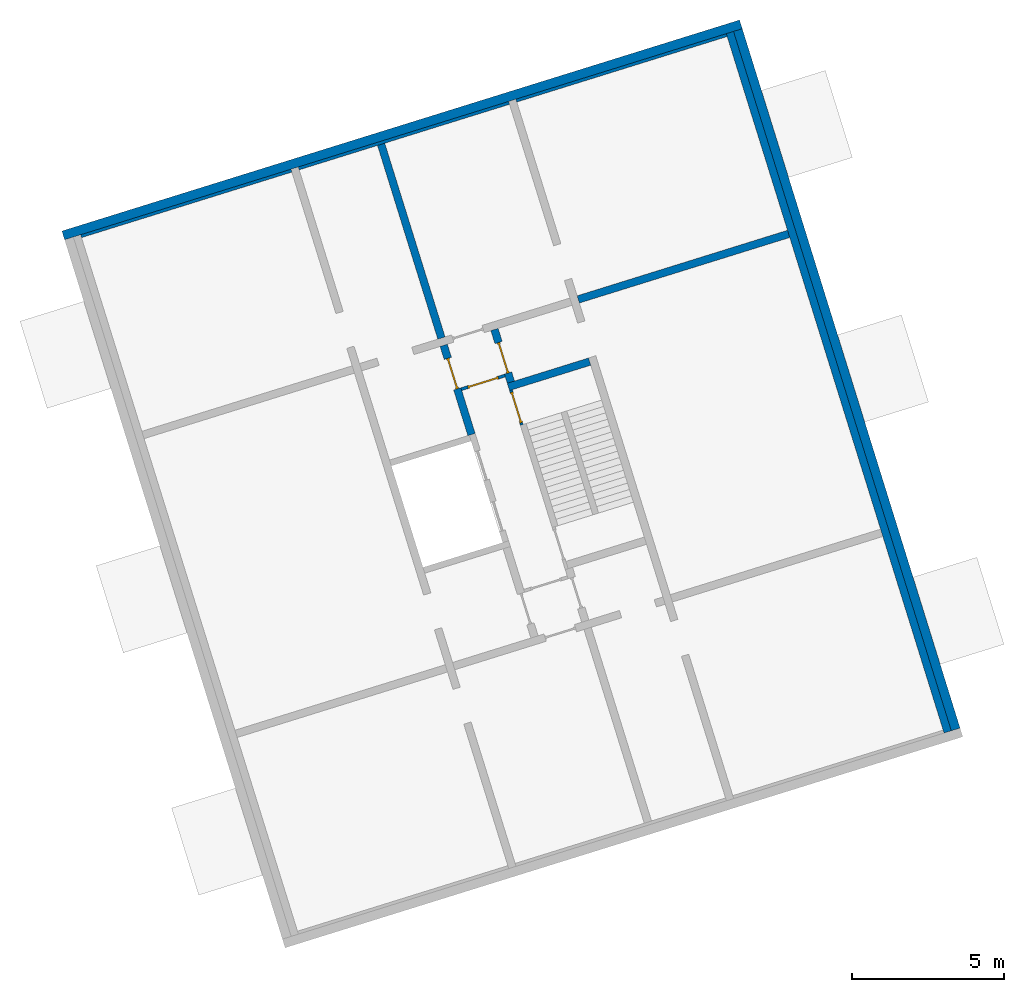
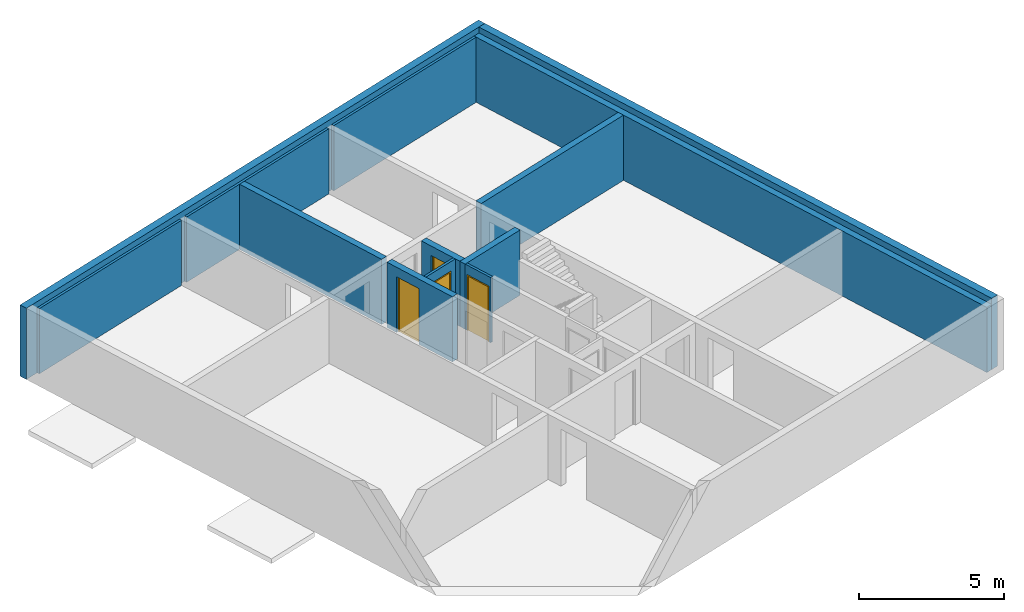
# One storey, part 2 of 4: 13 walls, 4 doors, 4 openings.
"""IFC4 building model written with IfcOpenShell, lengths in metres."""

import ifcopenshell
import ifcopenshell.guid

model = None  # the IFC model being written
_history = None  # IfcOwnerHistory: only IFC2X3 demands one
_inside = {}  # id of a spatial element -> (the spatial element, [elements in it])
_under = {}  # id of a project, library or spatial element -> (it, [spatial elements below it])
_declared = {}  # id of a project -> (the project, [libraries it declares])
_typed = {}  # id of a type object -> (the type object, [elements of that type])
_made_of = {}  # id of a material, layer set ... -> (it, [elements and type objects made of it])


def new_model(schema):
    """Start an empty IFC model of exactly this schema.

    Asked for "IFC4X3", IfcOpenShell would pick the latest addendum, in which some entities
    have other attributes; the version numbers below select the first issue.
    IFC2X3 requires an IfcOwnerHistory on every rooted entity: one is made here for all.
    """
    global model, _history
    if schema == "IFC4X3":
        model = ifcopenshell.file(schema_version=(4, 3, 0, 0))
    else:
        model = ifcopenshell.file(schema=schema)
    _inside.clear()
    _under.clear()
    _declared.clear()
    _typed.clear()
    _made_of.clear()
    _history = None
    if model.schema == "IFC2X3":
        org = make("IfcOrganization", Name="unknown")
        user = make(
            "IfcPersonAndOrganization",
            ThePerson=make("IfcPerson", FamilyName="unknown"),
            TheOrganization=org,
        )
        app = make(
            "IfcApplication",
            ApplicationDeveloper=org,
            Version="unknown",
            ApplicationFullName="unknown",
            ApplicationIdentifier="unknown",
        )
        _history = make(
            "IfcOwnerHistory",
            OwningUser=user,
            OwningApplication=app,
            ChangeAction="ADDED",
            CreationDate=0,
        )
    return model


def make(cls, **values):
    """One entity of the class cls with the attributes given. An attribute that is None is left unset."""
    return model.create_entity(
        cls, **{name: value for name, value in values.items() if value is not None}
    )


def entity(cls, *values):
    """Any entity or typed value of the class cls, its attributes in the order of the schema. None: left unset."""
    e = model.create_entity(cls)
    for i, value in enumerate(values):
        if value is not None:
            e[i] = value
    return e


def rooted(cls, **values):
    """An entity with a GlobalId (a new one), such as an element, a storey or a relation."""
    return make(cls, GlobalId=ifcopenshell.guid.new(), OwnerHistory=_history, **values)


def si_unit(unit_type, name, prefix=None):
    """IfcSIUnit, for example si_unit("LENGTHUNIT", "METRE", prefix="MILLI")."""
    return make("IfcSIUnit", UnitType=unit_type, Prefix=prefix, Name=name)


def converted_unit(unit_type, name, factor, base, dimensions=None, offset=None):
    """IfcConversionBasedUnit, such as the inch: factor (a typed value) times the base unit."""
    return make(
        "IfcConversionBasedUnit"
        if offset is None
        else "IfcConversionBasedUnitWithOffset",
        ConversionOffset=offset,
        Dimensions=None
        if dimensions is None
        else entity("IfcDimensionalExponents", *dimensions),
        UnitType=unit_type,
        Name=name,
        ConversionFactor=make(
            "IfcMeasureWithUnit", ValueComponent=factor, UnitComponent=base
        ),
    )


def assignment(units):
    """IfcUnitAssignment: the units of a project."""
    return None if units is None else make("IfcUnitAssignment", Units=units)


def point(xyz):
    """IfcCartesianPoint."""
    return None if xyz is None else make("IfcCartesianPoint", Coordinates=xyz)


def direction(xyz):
    """IfcDirection."""
    return None if xyz is None else make("IfcDirection", DirectionRatios=xyz)


def frame(location, z_axis=None, x_axis=None):
    """IfcAxis2Placement3D, a coordinate frame: its origin and axes. An axis left out is left unset."""
    return make(
        "IfcAxis2Placement3D",
        Location=point(location),
        Axis=direction(z_axis),
        RefDirection=direction(x_axis),
    )


def origin():
    """The frame at (0, 0, 0) with its axes left unset."""
    return frame((0.0, 0.0, 0.0))


def place(relative_to, where):
    """IfcLocalPlacement: puts the frame where relative to a parent placement (None: the world)."""
    return make(
        "IfcLocalPlacement", PlacementRelTo=relative_to, RelativePlacement=where
    )


def context(
    kind, dimensions, precision=None, world=None, true_north=None, identifier=None
):
    """IfcGeometricRepresentationContext, for example the 3D "Model" context."""
    return make(
        "IfcGeometricRepresentationContext",
        ContextIdentifier=identifier,
        ContextType=kind,
        CoordinateSpaceDimension=dimensions,
        Precision=precision,
        WorldCoordinateSystem=world,
        TrueNorth=true_north,
    )


def subcontext(parent, identifier, kind, view, scale=None):
    """IfcGeometricRepresentationSubContext, for example "Body" below "Model"."""
    return make(
        "IfcGeometricRepresentationSubContext",
        ContextIdentifier=identifier,
        ContextType=kind,
        ParentContext=parent,
        TargetScale=scale,
        TargetView=view,
    )


def project(units=None, contexts=None):
    """IfcProject with its units and contexts."""
    return rooted(
        "IfcProject",
        Name="project",
        RepresentationContexts=contexts,
        UnitsInContext=assignment(units),
    )


def spatial(cls, under=None, at=None, **own):
    """A site, building, storey or space (cls), placed at a placement, below another one or the project."""
    s = rooted(cls, ObjectPlacement=at, **own)
    if under is not None:
        _under.setdefault(under.id(), (under, []))[1].append(s)
    return s


def point_list(points):
    """IfcCartesianPointList2D or 3D."""
    cls = (
        "IfcCartesianPointList2D" if len(points[0]) == 2 else "IfcCartesianPointList3D"
    )
    return make(cls, CoordList=points)


def indexed_curve(points, segments=None, self_intersect=None):
    """IfcIndexedPolyCurve: lines and arcs through numbered points (the first is 1)."""
    return make(
        "IfcIndexedPolyCurve",
        Points=point_list(points),
        Segments=segments,
        SelfIntersect=self_intersect,
    )


def outline(outer, holes=None, kind="AREA"):
    """IfcArbitraryClosedProfileDef: a profile drawn as a closed curve; with holes, ...WithVoids."""
    if holes is None:
        return make("IfcArbitraryClosedProfileDef", ProfileType=kind, OuterCurve=outer)
    return make(
        "IfcArbitraryProfileDefWithVoids",
        ProfileType=kind,
        OuterCurve=outer,
        InnerCurves=holes,
    )


def extrude(swept, where, along, depth):
    """IfcExtrudedAreaSolid: the profile swept, set in the frame where, extruded along a direction by depth."""
    return make(
        "IfcExtrudedAreaSolid",
        SweptArea=swept,
        Position=where,
        ExtrudedDirection=direction(along),
        Depth=depth,
    )


def polygons(points, faces, closed=None, point_numbers=None):
    """IfcPolygonalFaceSet: a face is its outer loop, then its inner loops; points numbered from 1."""
    made = []
    for loops in faces:
        if len(loops) == 1:
            made.append(make("IfcIndexedPolygonalFace", CoordIndex=loops[0]))
        else:
            made.append(
                make(
                    "IfcIndexedPolygonalFaceWithVoids",
                    CoordIndex=loops[0],
                    InnerCoordIndices=loops[1:],
                )
            )
    return make(
        "IfcPolygonalFaceSet",
        Coordinates=point_list(points),
        Closed=closed,
        Faces=made,
        PnIndex=point_numbers,
    )


def shape(context_of_items, identifier, shape_type, items):
    """IfcShapeRepresentation: the items that make up one representation, for example the "Body"."""
    return make(
        "IfcShapeRepresentation",
        ContextOfItems=context_of_items,
        RepresentationIdentifier=identifier,
        RepresentationType=shape_type,
        Items=items,
    )


def source(mapping_origin, context_of_items, identifier, shape_type, items):
    """IfcRepresentationMap: a shape defined once, which mapped items show again and again."""
    return make(
        "IfcRepresentationMap",
        MappingOrigin=mapping_origin,
        MappedRepresentation=shape(context_of_items, identifier, shape_type, items),
    )


def transform(
    local_origin,
    x_axis=None,
    y_axis=None,
    z_axis=None,
    scale=None,
    scale2=None,
    scale3=None,
    uniform=True,
):
    """IfcCartesianTransformationOperator3D, or its non-uniform kind. x_axis, y_axis, z_axis: its Axis1, 2, 3."""
    if uniform:
        return make(
            "IfcCartesianTransformationOperator3D",
            Axis1=direction(x_axis),
            Axis2=direction(y_axis),
            LocalOrigin=point(local_origin),
            Scale=scale,
            Axis3=direction(z_axis),
        )
    return make(
        "IfcCartesianTransformationOperator3DnonUniform",
        Axis1=direction(x_axis),
        Axis2=direction(y_axis),
        LocalOrigin=point(local_origin),
        Scale=scale,
        Axis3=direction(z_axis),
        Scale2=scale2,
        Scale3=scale3,
    )


def mapped(mapping_source, mapping_target):
    """IfcMappedItem: shows the shape of a source again, moved by a transform."""
    return make(
        "IfcMappedItem", MappingSource=mapping_source, MappingTarget=mapping_target
    )


def material(Name=None, Category=None):
    """IfcMaterial."""
    return make("IfcMaterial", Name=Name, Category=Category)


def constituent(of_material, Name=None, Category=None, fraction=None):
    """IfcMaterialConstituent: one of the materials an element consists of."""
    return make(
        "IfcMaterialConstituent",
        Name=Name,
        Material=of_material,
        Fraction=fraction,
        Category=Category,
    )


def constituent_set(constituents=None, Name=None):
    """IfcMaterialConstituentSet."""
    return make(
        "IfcMaterialConstituentSet", Name=Name, MaterialConstituents=constituents
    )


def made_of(thing, what):
    """Note that an element or type object is made of a material, layer set ...; save() writes the relation."""
    if what is not None:
        _made_of.setdefault(what.id(), (what, []))[1].append(thing)
    return thing


def type_object(cls, material=None, **own):
    """A type object (cls), such as IfcWallType, which elements share."""
    return made_of(rooted(cls, **own), material)


def type_shapes(of_type, sources):
    """Give a type object the sources (RepresentationMaps) that its elements show as mapped items."""
    of_type.RepresentationMaps = sources


def element(
    cls,
    number,
    at=None,
    inside=None,
    cuts=None,
    type_object=None,
    material=None,
    context=None,
    identifier="Body",
    shape_type=None,
    held_by="IfcProductDefinitionShape",
    body=None,
    shapes=None,
    **own,
):
    """One element of the class cls, such as IfcWall. Its Tag is "e" and its number.

    at: its placement. inside: the storey or other place that contains it. cuts: it is an
    opening in that element (IfcRelVoidsElement). A single representation is given by context,
    identifier, shape_type and body (its items); several are given by shapes. held_by: the class
    of the entity that holds the representations. save() writes the other relations.
    """
    e = rooted(cls, Tag="e%d" % number, ObjectPlacement=at, **own)
    if body is not None:
        shapes = [shape(context, identifier, shape_type, body)]
    if shapes is not None:
        e.Representation = make(held_by, Representations=shapes)
    if inside is not None:
        _inside.setdefault(inside.id(), (inside, []))[1].append(e)
    if cuts is not None:
        rooted(
            "IfcRelVoidsElement", RelatingBuildingElement=cuts, RelatedOpeningElement=e
        )
    if type_object is not None:
        _typed.setdefault(type_object.id(), (type_object, []))[1].append(e)
    return made_of(e, material)


def fill(opening, filler):
    """IfcRelFillsElement: the door or window that sits in an opening."""
    return rooted(
        "IfcRelFillsElement",
        RelatingOpeningElement=opening,
        RelatedBuildingElement=filler,
    )


def aggregate(whole, parts):
    """IfcRelAggregates: a whole, such as a stair, and the parts it consists of."""
    return rooted("IfcRelAggregates", RelatingObject=whole, RelatedObjects=parts)


def save(model, path):
    """Write the relations noted so far, then the file.

    IfcRelAggregates (storeys below a building ...), IfcRelContainedInSpatialStructure (elements
    in a storey), IfcRelDefinesByType, IfcRelAssociatesMaterial and IfcRelDeclares: one each for
    every whole, place, type object, material and project.
    """
    for whole, parts in _under.values():
        aggregate(whole, parts)
    for where, things in _inside.values():
        rooted(
            "IfcRelContainedInSpatialStructure",
            RelatedElements=things,
            RelatingStructure=where,
        )
    for kind, things in _typed.values():
        rooted("IfcRelDefinesByType", RelatedObjects=things, RelatingType=kind)
    for what, things in _made_of.values():
        rooted("IfcRelAssociatesMaterial", RelatedObjects=things, RelatingMaterial=what)
    for by, libraries in _declared.values():
        rooted("IfcRelDeclares", RelatingContext=by, RelatedDefinitions=libraries)
    model.write(path)


model = new_model("IFC4")

# Units and contexts
model_context = context("Model", 3, precision=1e-05, world=origin(), true_north=direction((6.12323399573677e-17, 1.0)))
body_context = subcontext(model_context, "Body", "Model", "MODEL_VIEW")
ifc_project = project(units=[si_unit("LENGTHUNIT", "METRE"), si_unit("AREAUNIT", "SQUARE_METRE"), si_unit("VOLUMEUNIT", "CUBIC_METRE"), converted_unit("PLANEANGLEUNIT", "DEGREE", entity("IfcPlaneAngleMeasure", 0.0174532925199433), si_unit("PLANEANGLEUNIT", "RADIAN"), dimensions=[0, 0, 0, 0, 0, 0, 0])], contexts=[model_context])

# Site, building, storey
site_placement = place(None, frame((13.1347999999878, 11.9886000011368, 0.0), z_axis=(0.0, 0.0, 1.0), x_axis=(0.954770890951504, 0.297342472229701, 0.0)))
site = spatial("IfcSite", under=ifc_project, at=site_placement, Name="Schiehaven", CompositionType="ELEMENT")
building_placement = place(site_placement, origin())
building = spatial("IfcBuilding", under=site, at=building_placement, Name="VORM huis", CompositionType="ELEMENT")
storey_placement = place(building_placement, frame((0.0, 0.0, 18.9)))
storey = spatial("IfcBuildingStorey", under=building, at=storey_placement, Name="06 zesde verdieping", CompositionType="ELEMENT", Elevation=18.9)

# Walls
ifc_material_1 = material(Name="beton_gewapend_ihw", Category="Miscellaneous")
wall_type_1 = type_object("IfcWallType", Name="Basic Wall:28_WA_skelet_wand 250mm_gen", PredefinedType="STANDARD")
wall_1_placement = place(storey_placement, frame((27.5, 5.0, 0.0), z_axis=(0.0, 0.0, 1.0), x_axis=(0.0, 1.0, 0.0)))
element("IfcWall", 1, at=wall_1_placement, inside=storey, type_object=wall_type_1, material=ifc_material_1, Name="Constructieve wand", ObjectType="Wand", PredefinedType="NOTDEFINED", context=body_context, shape_type="SweptSolid", body=[
    extrude(outline(indexed_curve([(24.1, 0.125000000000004), (4.21737840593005e-16, 0.125000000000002), (-4.21737840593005e-16, -0.125000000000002), (24.1, -0.125), (24.1, 0.125000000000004)], self_intersect=False)), origin(), (0.0, 0.0, 1.0), 2.75),
])
ifc_material_2 = material(Name="ntb_ntb_ntb", Category="Miscellaneous")
wall_type_2 = type_object("IfcWallType", Name="Basic Wall:21_WA_gevel_binnenspouwwand 100mm_gen", PredefinedType="STANDARD")
wall_2_placement = place(storey_placement, frame((5.12500000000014, 29.0500000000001, 0.0)))
element("IfcWall", 2, at=wall_2_placement, inside=storey, type_object=wall_type_2, material=ifc_material_2, Name="Binnenspouwblad", ObjectType="Wand", PredefinedType="NOTDEFINED", context=body_context, shape_type="SweptSolid", body=[
    extrude(outline(indexed_curve([(7.24999999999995, 0.0500000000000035), (-1.62265042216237e-16, 0.0500000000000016), (1.62265042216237e-16, -0.0500000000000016), (7.24999999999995, -0.0499999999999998), (7.24999999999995, 0.0500000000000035)], self_intersect=False)), origin(), (0.0, 0.0, 1.0), 2.75),
])
wall_3_placement = place(storey_placement, frame((19.8750000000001, 29.05, 0.0), z_axis=(0.0, 0.0, 1.0), x_axis=(-1.0, 0.0, 0.0)))
element("IfcWall", 3, at=wall_3_placement, inside=storey, type_object=wall_type_2, material=ifc_material_2, Name="Binnenspouwblad", ObjectType="Wand", PredefinedType="NOTDEFINED", context=body_context, shape_type="SweptSolid", body=[
    extrude(outline(indexed_curve([(7.24999999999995, 0.0500000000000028), (-8.07179175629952e-18, 0.0500000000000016), (8.07179175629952e-18, -0.0500000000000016), (7.24999999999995, -0.0500000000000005), (7.24999999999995, 0.0500000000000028)], self_intersect=False)), origin(), (0.0, 0.0, 1.0), 2.75),
])
wall_4_placement = place(storey_placement, frame((20.1250000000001, 29.05, 0.0)))
element("IfcWall", 4, at=wall_4_placement, inside=storey, type_object=wall_type_2, material=ifc_material_2, Name="Binnenspouwblad", ObjectType="Wand", PredefinedType="NOTDEFINED", context=body_context, shape_type="SweptSolid", body=[
    extrude(outline(indexed_curve([(7.24999999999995, 0.0500000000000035), (-1.62265042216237e-16, 0.0500000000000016), (1.62265042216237e-16, -0.0500000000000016), (7.24999999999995, -0.0499999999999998), (7.24999999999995, 0.0500000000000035)], self_intersect=False)), origin(), (0.0, 0.0, 1.0), 2.75),
])
wall_type_3 = type_object("IfcWallType", Name="Basic Wall: 300mm_gen", PredefinedType="STANDARD")
wall_5_placement = place(storey_placement, frame((27.7750000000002, 29.1, 0.0), z_axis=(0.0, 0.0, 1.0), x_axis=(0.0, -1.0, 0.0)))
element("IfcWall", 5, at=wall_5_placement, inside=storey, type_object=wall_type_3, material=ifc_material_2, Name="Gevelwand", ObjectType="Wand", PredefinedType="NOTDEFINED", context=body_context, shape_type="SweptSolid", body=[
    extrude(outline(indexed_curve([(24.1, 0.149999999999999), (-3.69735301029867e-16, 0.150000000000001), (3.69735301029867e-16, -0.150000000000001), (24.1, -0.150000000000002), (24.1, 0.149999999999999)], self_intersect=False)), origin(), (0.0, 0.0, 1.0), 3.0),
])
wall_6_placement = place(storey_placement, frame((4.57500000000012, 29.25, 0.0)))
element("IfcWall", 6, at=wall_6_placement, inside=storey, type_object=wall_type_3, material=ifc_material_2, Name="Gevelwand", ObjectType="Wand", PredefinedType="NOTDEFINED", context=body_context, shape_type="SweptSolid", body=[
    extrude(outline(indexed_curve([(23.35, 0.15), (1.58384323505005e-16, 0.150000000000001), (-1.58384323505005e-16, -0.150000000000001), (23.35, -0.150000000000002), (23.35, 0.15)], self_intersect=False)), origin(), (0.0, 0.0, 1.0), 3.0),
])
wall_type_4 = type_object("IfcWallType", Name="Basic Wall:22_WA_afbouw_binnenwand 250mm_gen", PredefinedType="STANDARD")
wall_7_placement = place(storey_placement, frame((19.8750000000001, 20.135, 0.0), z_axis=(0.0, 0.0, 1.0), x_axis=(-1.0, 0.0, 0.0)))
element("IfcWall", 7, at=wall_7_placement, inside=storey, type_object=wall_type_4, material=ifc_material_2, Name="Binnenwand", ObjectType="Wand", PredefinedType="NOTDEFINED", context=body_context, shape_type="SweptSolid", body=[
    extrude(outline(indexed_curve([(2.8, 0.125000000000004), (-4.9649652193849e-16, 0.125000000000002), (4.9649652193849e-16, -0.125000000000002), (2.80000000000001, -0.124999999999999), (2.8, 0.125000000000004)], self_intersect=False)), origin(), (0.0, 0.0, 1.0), 2.75),
])

# Wall, opening, door
wall_8_placement = place(storey_placement, frame((17.2000000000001, 20.26, 0.0), z_axis=(0.0, 0.0, 1.0), x_axis=(0.0, 1.0, 0.0)))
wall_8 = element("IfcWall", 8, at=wall_8_placement, inside=storey, type_object=wall_type_4, material=ifc_material_2, Name="Binnenwand", ObjectType="Wand", PredefinedType="NOTDEFINED", context=body_context, shape_type="Tessellation", body=[
    polygons([(0.0, -0.124999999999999, -2.16573425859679e-15), (0.315000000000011, -0.124999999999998, -2.16573425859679e-15), (0.315000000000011, -0.124999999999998, 2.34999999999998), (1.36500000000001, -0.125, 2.34999999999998), (1.36500000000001, -0.125, -2.16573425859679e-15), (1.815, -0.125000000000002, -2.16573425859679e-15), (1.815, -0.125000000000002, 2.75), (0.0, -0.124999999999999, 2.75), (0.315000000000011, 0.125, 2.34999999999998), (0.315000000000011, 0.125, -2.16573425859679e-15), (0.215000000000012, 0.124999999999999, -2.16573425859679e-15), (0.0, 0.125, -2.16573425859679e-15), (0.0, 0.125, 2.75), (0.215000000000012, 0.124999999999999, 2.75), (0.315000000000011, 0.125, 2.75), (1.815, 0.125, 2.75), (1.815, 0.125, -2.16573425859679e-15), (1.36500000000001, 0.124999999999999, -2.16573425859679e-15), (1.36500000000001, 0.124999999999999, 2.34999999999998)], [[[1, 2, 3, 4, 5, 6, 7, 8]], [[9, 10, 11, 12, 13, 14, 15, 16, 17, 18, 19]], [[12, 11, 10, 2, 1]], [[7, 6, 17, 16]], [[8, 7, 16, 15, 14, 13]], [[5, 4, 19, 18]], [[3, 2, 10, 9]], [[4, 3, 9, 19]], [[1, 8, 13, 12]], [[18, 17, 6, 5]]], closed=True),
])
opening_1_placement = place(wall_8_placement, frame((0.315000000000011, -0.125000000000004, 0.0)))
opening_1 = element("IfcOpeningElement", 9, at=opening_1_placement, cuts=wall_8, Name="Woningtoegangsdeur", PredefinedType="OPENING", context=body_context, shape_type="SweptSolid", body=[
    extrude(outline(indexed_curve([(2.34999999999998, 1.05), (0.0, 1.05), (0.0, 0.0), (2.34999999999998, 0.0), (2.34999999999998, 1.05)], self_intersect=False)), frame((0.0, 0.0, 0.0), z_axis=(0.0, 1.0, 0.0), x_axis=(0.0, 0.0, 1.0)), (0.0, 0.0, 1.0), 0.25),
])
ifc_material_3 = material(Name="PD_a_binnenwandopeningen", Category="Miscellaneous")
ifc_constituent_1 = constituent(ifc_material_3, Name="PD_a_binnenwandopeningen", Category="Miscellaneous")
ifc_material_4 = material(Name="metaal_aluminium_ntb", Category="Miscellaneous")
ifc_constituent_2 = constituent(ifc_material_4, Name="metaal_aluminium_ntb", Category="Miscellaneous")
ifc_constituent_set_1 = constituent_set(constituents=[ifc_constituent_1, ifc_constituent_2])
ifc_constituent_3 = constituent(ifc_material_3, Name="PD_a_binnenwandopeningen", Category="Miscellaneous")
ifc_constituent_4 = constituent(ifc_material_4, Name="Panel", Category="Miscellaneous")
ifc_constituent_set_2 = constituent_set(constituents=[ifc_constituent_3, ifc_constituent_4])
door_type_1 = type_object("IfcDoorType", Name="32_DO_binnendeur enkel:woningtoegangsdeur", OperationType="REVOLVING", PredefinedType="DOOR", material=ifc_constituent_set_2)
shared_shape_1 = source(origin(), body_context, "Body", "SweptSolid", [
    extrude(outline(indexed_curve([(-1.16249999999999, -0.525000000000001), (1.18749999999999, -0.525), (1.18749999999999, 0.525000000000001), (-1.16249999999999, 0.525000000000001), (-1.16249999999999, 0.475), (1.13749999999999, 0.475), (1.13749999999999, -0.475), (-1.16249999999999, -0.475), (-1.16249999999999, -0.525000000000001)], self_intersect=False)), frame((0.525000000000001, 0.0749999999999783, 1.16249999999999), z_axis=(0.0, 1.0, 0.0), x_axis=(0.0, 0.0, 1.0)), (0.0, 0.0, 1.0), 0.1),
    extrude(outline(indexed_curve([(-0.025, -0.475), (0.025, -0.475), (0.025, 0.475), (-0.025, 0.475), (-0.025, -0.475)], self_intersect=False)), frame((0.525000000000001, 0.12499999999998, 0.0), z_axis=(0.0, 0.0, 1.0), x_axis=(0.0, 1.0, 0.0)), (0.0, 0.0, 1.0), 2.29999999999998),
])
type_shapes(door_type_1, [shared_shape_1])
door_1_placement = place(opening_1_placement, origin())
door_1 = element("IfcDoor", 10, at=door_1_placement, inside=storey, type_object=door_type_1, material=ifc_constituent_set_1, Name="Woningtoegangsdeur", ObjectType="Deur", OperationType="REVOLVING", OverallHeight=2.34999999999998, OverallWidth=1.05, PredefinedType="DOOR", context=body_context, shape_type="MappedRepresentation", body=[
    mapped(shared_shape_1, transform((0.0, 0.0, 0.0), scale=1.0)),
])
fill(opening_1, door_1)

wall_9_placement = place(storey_placement, frame((15.4500000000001, 19.0, 0.0), z_axis=(0.0, 0.0, 1.0), x_axis=(0.0, 1.0, 0.0)))
wall_9 = element("IfcWall", 11, at=wall_9_placement, inside=storey, type_object=wall_type_4, material=ifc_material_2, Name="Binnenwand", ObjectType="Wand", PredefinedType="NOTDEFINED", context=body_context, shape_type="Tessellation", body=[
    polygons([(2.62500000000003, -0.124999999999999, 2.34999999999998), (2.62500000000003, -0.124999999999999, -2.16573425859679e-15), (3.075, -0.124999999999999, -2.16573425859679e-15), (3.075, -0.124999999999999, 2.75), (1.575, -0.124999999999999, 2.75), (1.475, -0.124999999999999, 2.75), (2.16573425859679e-15, -0.124999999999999, 2.75), (2.16573425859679e-15, -0.124999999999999, -2.16573425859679e-15), (1.475, -0.124999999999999, -2.16573425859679e-15), (1.57500000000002, -0.124999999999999, -2.16573425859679e-15), (1.57500000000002, -0.124999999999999, 2.34999999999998), (3.075, 0.125000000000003, -2.16573425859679e-15), (2.62500000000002, 0.125, -2.16573425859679e-15), (2.62500000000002, 0.125, 2.34999999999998), (1.57500000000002, 0.124999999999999, 2.34999999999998), (1.57500000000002, 0.124999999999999, -2.16573425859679e-15), (0.0, 0.125000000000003, -2.16573425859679e-15), (0.0, 0.125000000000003, 2.75), (3.075, 0.125000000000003, 2.75)], [[[1, 2, 3, 4, 5, 6, 7, 8, 9, 10, 11]], [[12, 13, 14, 15, 16, 17, 18, 19]], [[10, 9, 8, 17, 16]], [[4, 3, 12, 19]], [[7, 6, 5, 4, 19, 18]], [[8, 7, 18, 17]], [[16, 15, 11, 10]], [[14, 13, 2, 1]], [[15, 14, 1, 11]], [[3, 2, 13, 12]]], closed=True),
])
opening_2_placement = place(wall_9_placement, frame((2.62500000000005, 0.124999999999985, 0.0)))
opening_2 = element("IfcOpeningElement", 12, at=opening_2_placement, cuts=wall_9, Name="Woningtoegangsdeur", PredefinedType="OPENING", context=body_context, shape_type="SweptSolid", body=[
    extrude(outline(indexed_curve([(2.34999999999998, 1.05), (0.0, 1.05), (0.0, 0.0), (2.34999999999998, 0.0), (2.34999999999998, 1.05)], self_intersect=False)), frame((0.0, 0.0, 0.0), z_axis=(0.0, -1.0, 0.0), x_axis=(0.0, 0.0, 1.0)), (0.0, 0.0, 1.0), 0.25),
])
ifc_constituent_5 = constituent(ifc_material_3, Name="PD_a_binnenwandopeningen", Category="Miscellaneous")
ifc_constituent_6 = constituent(ifc_material_4, Name="metaal_aluminium_ntb", Category="Miscellaneous")
ifc_constituent_set_3 = constituent_set(constituents=[ifc_constituent_5, ifc_constituent_6])
door_2_placement = place(opening_2_placement, frame((0.0, 0.0, 0.0), z_axis=(0.0, 0.0, 1.0), x_axis=(-1.0, 0.0, 0.0)))
door_2 = element("IfcDoor", 13, at=door_2_placement, inside=storey, type_object=door_type_1, material=ifc_constituent_set_3, Name="Woningtoegangsdeur", ObjectType="Deur", OperationType="REVOLVING", OverallHeight=2.34999999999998, OverallWidth=1.05, PredefinedType="DOOR", context=body_context, shape_type="MappedRepresentation", body=[
    mapped(shared_shape_1, transform((0.0, 0.0, 0.0), scale=1.0)),
])
fill(opening_2, door_2)

# Walls
wall_10_placement = place(storey_placement, frame((15.4500000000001, 22.325, 0.0), z_axis=(0.0, 0.0, 1.0), x_axis=(0.0, 1.0, 0.0)))
element("IfcWall", 14, at=wall_10_placement, inside=storey, type_object=wall_type_4, material=ifc_material_2, Name="Binnenwand", ObjectType="Wand", PredefinedType="NOTDEFINED", context=body_context, shape_type="SweptSolid", body=[
    extrude(outline(indexed_curve([(6.67500000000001, 0.125), (-6.8946596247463e-16, 0.125), (6.8946596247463e-16, -0.125), (6.67500000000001, -0.125), (6.67500000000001, 0.125)], self_intersect=False)), origin(), (0.0, 0.0, 1.0), 2.75),
])
wall_11_placement = place(storey_placement, frame((20.125, 22.2, 0.0)))
element("IfcWall", 15, at=wall_11_placement, inside=storey, type_object=wall_type_4, material=ifc_material_2, Name="Binnenwand", ObjectType="Wand", PredefinedType="NOTDEFINED", context=body_context, shape_type="SweptSolid", body=[
    extrude(outline(indexed_curve([(7.24999999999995, 0.125000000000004), (-1.92055213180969e-16, 0.125000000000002), (1.92055213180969e-16, -0.125000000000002), (7.24999999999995, -0.124999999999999), (7.24999999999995, 0.125000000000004)], self_intersect=False)), origin(), (0.0, 0.0, 1.0), 2.75),
])

# Wall, opening, door
wall_type_5 = type_object("IfcWallType", Name="Basic Wall:22_WA_afbouw_binnenwand 100mm_gen", PredefinedType="STANDARD")
wall_12_placement = place(storey_placement, frame((17.1250000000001, 20.01, 0.0), z_axis=(0.0, 0.0, 1.0), x_axis=(0.0, -1.0, 0.0)))
wall_12 = element("IfcWall", 16, at=wall_12_placement, inside=storey, type_object=wall_type_5, material=ifc_material_2, Name="Binnenwand", ObjectType="Wand", PredefinedType="NOTDEFINED", context=body_context, shape_type="Tessellation", body=[
    polygons([(1.19999999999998, -0.050000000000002, -2.16573425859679e-15), (1.19999999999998, -0.050000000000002, 2.75), (0.0, -0.0500000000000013, 2.75), (0.0, -0.0500000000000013, -2.16573425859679e-15), (0.0749999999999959, -0.0500000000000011, -2.16573425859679e-15), (0.0749999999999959, -0.0500000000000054, 2.34999999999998), (1.125, -0.0500000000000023, 2.34999999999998), (1.125, -0.0500000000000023, -2.16573425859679e-15), (1.19999999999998, 0.0499999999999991, 2.75), (1.19999999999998, 0.0499999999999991, -2.16573425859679e-15), (1.125, 0.0499999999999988, -2.16573425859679e-15), (1.125, 0.0499999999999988, 2.34999999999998), (0.0749999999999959, 0.0499999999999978, 2.34999999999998), (0.0749999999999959, 0.0499999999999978, -2.16573425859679e-15), (0.0, 0.0500000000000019, -2.16573425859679e-15), (0.0, 0.0500000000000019, 2.75)], [[[1, 2, 3, 4, 5, 6, 7, 8]], [[9, 10, 11, 12, 13, 14, 15, 16]], [[4, 15, 14, 5]], [[2, 1, 10, 9]], [[3, 2, 9, 16]], [[4, 3, 16, 15]], [[13, 6, 5, 14]], [[6, 13, 12, 7]], [[7, 12, 11, 8]], [[10, 1, 8, 11]]], closed=True),
])
opening_3_placement = place(wall_12_placement, frame((0.0749999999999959, -0.0499999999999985, 0.0)))
opening_3 = element("IfcOpeningElement", 17, at=opening_3_placement, cuts=wall_12, Name="Vluchtdeur", PredefinedType="OPENING", context=body_context, shape_type="SweptSolid", body=[
    extrude(outline(indexed_curve([(2.34999999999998, 1.05), (0.0, 1.05), (0.0, -3.51974282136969e-30), (2.34999999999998, -3.51974282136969e-30), (2.34999999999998, 1.05)], self_intersect=False)), frame((0.0, 0.0, 0.0), z_axis=(0.0, 1.0, 0.0), x_axis=(0.0, 0.0, 1.0)), (0.0, 0.0, 1.0), 0.1),
])
ifc_constituent_7 = constituent(ifc_material_3, Name="PD_a_binnenwandopeningen", Category="Miscellaneous")
ifc_constituent_8 = constituent(ifc_material_4, Name="metaal_aluminium_ntb", Category="Miscellaneous")
ifc_constituent_set_4 = constituent_set(constituents=[ifc_constituent_7, ifc_constituent_8])
ifc_constituent_9 = constituent(ifc_material_3, Name="PD_a_binnenwandopeningen", Category="Miscellaneous")
ifc_constituent_10 = constituent(ifc_material_4, Name="Panel", Category="Miscellaneous")
ifc_constituent_set_5 = constituent_set(constituents=[ifc_constituent_9, ifc_constituent_10])
door_type_2 = type_object("IfcDoorType", Name="32_DO_binnendeur enkel:binnendeur zelfsluitend 30min", OperationType="NOTDEFINED", PredefinedType="DOOR", material=ifc_constituent_set_5)
shared_shape_2 = source(origin(), body_context, "Body", "SweptSolid", [
    extrude(outline(indexed_curve([(-1.16249999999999, -0.525000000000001), (1.18749999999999, -0.525), (1.18749999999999, 0.525), (-1.16249999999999, 0.525), (-1.16249999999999, 0.475), (1.13749999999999, 0.475), (1.13749999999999, -0.475), (-1.16249999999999, -0.475), (-1.16249999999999, -0.525000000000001)], self_intersect=False)), frame((0.525000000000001, 0.0, 1.16249999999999), z_axis=(0.0, 1.0, 0.0), x_axis=(0.0, 0.0, 1.0)), (0.0, 0.0, 1.0), 0.1),
    extrude(outline(indexed_curve([(-0.025, -0.475), (0.025, -0.475), (0.025, 0.475), (-0.025, 0.475), (-0.025, -0.475)], self_intersect=False)), frame((0.525000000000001, 0.0499999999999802, 0.0), z_axis=(0.0, 0.0, 1.0), x_axis=(0.0, 1.0, 0.0)), (0.0, 0.0, 1.0), 2.29999999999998),
])
type_shapes(door_type_2, [shared_shape_2])
door_3_placement = place(opening_3_placement, origin())
door_3 = element("IfcDoor", 18, at=door_3_placement, inside=storey, type_object=door_type_2, material=ifc_constituent_set_4, Name="Vluchtdeur", ObjectType="Deur", OperationType="NOTDEFINED", OverallHeight=2.34999999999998, OverallWidth=1.05, PredefinedType="DOOR", context=body_context, shape_type="MappedRepresentation", body=[
    mapped(shared_shape_2, transform((0.0, 0.0, 0.0), scale=1.0)),
])
fill(opening_3, door_3)

wall_13_placement = place(storey_placement, frame((17.0750000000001, 20.525, 0.0), z_axis=(0.0, 0.0, 1.0), x_axis=(-1.0, 0.0, 0.0)))
wall_13 = element("IfcWall", 19, at=wall_13_placement, inside=storey, type_object=wall_type_5, material=ifc_material_2, Name="Binnenwand", ObjectType="Wand", PredefinedType="NOTDEFINED", context=body_context, shape_type="Tessellation", body=[
    polygons([(1.50000000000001, -0.0499999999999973, 2.75), (7.85851977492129e-16, -0.0499999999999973, 2.75), (7.85851977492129e-16, -0.0499999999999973, 2.34999999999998), (7.85851977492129e-16, -0.0499999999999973, -2.16573425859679e-15), (0.224999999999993, -0.0499999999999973, -2.16573425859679e-15), (0.224999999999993, -0.0499999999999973, 2.34999999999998), (1.27499999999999, -0.0499999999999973, 2.34999999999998), (1.27499999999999, -0.0499999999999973, -2.16573425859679e-15), (1.50000000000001, -0.0499999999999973, -2.16573425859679e-15), (1.50000000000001, -0.0499999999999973, 2.34999999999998), (8.45188811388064e-16, 0.0500000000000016, 2.75), (1.50000000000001, 0.0500000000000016, 2.75), (1.50000000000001, 0.0500000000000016, -2.16573425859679e-15), (1.27499999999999, 0.0500000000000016, -2.16573425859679e-15), (1.27499999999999, 0.0500000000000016, 2.34999999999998), (0.224999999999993, 0.0500000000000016, 2.34999999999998), (0.224999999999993, 0.0500000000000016, -2.16573425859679e-15), (8.45188811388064e-16, 0.0500000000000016, -2.16573425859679e-15)], [[[1, 2, 3, 4, 5, 6, 7, 8, 9, 10]], [[11, 12, 13, 14, 15, 16, 17, 18]], [[4, 18, 17, 5]], [[2, 1, 12, 11]], [[16, 6, 5, 17]], [[6, 16, 15, 7]], [[7, 15, 14, 8]], [[4, 3, 2, 11, 18]], [[1, 10, 9, 13, 12]], [[13, 9, 8, 14]]], closed=True),
])
opening_4_placement = place(wall_13_placement, frame((0.224999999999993, -0.0500000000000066, 0.0)))
opening_4 = element("IfcOpeningElement", 20, at=opening_4_placement, cuts=wall_13, Name="Vluchtdeur", PredefinedType="OPENING", context=body_context, shape_type="SweptSolid", body=[
    extrude(outline(indexed_curve([(2.34999999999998, 1.05), (0.0, 1.05), (0.0, 1.35358391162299e-15), (2.34999999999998, 1.35358391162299e-15), (2.34999999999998, 1.05)], self_intersect=False)), frame((0.0, 0.0, 0.0), z_axis=(0.0, 1.0, 0.0), x_axis=(0.0, 0.0, 1.0)), (0.0, 0.0, 1.0), 0.1),
])
ifc_constituent_11 = constituent(ifc_material_3, Name="PD_a_binnenwandopeningen", Category="Miscellaneous")
ifc_constituent_12 = constituent(ifc_material_4, Name="metaal_aluminium_ntb", Category="Miscellaneous")
ifc_constituent_set_6 = constituent_set(constituents=[ifc_constituent_11, ifc_constituent_12])
door_4_placement = place(opening_4_placement, origin())
door_4 = element("IfcDoor", 21, at=door_4_placement, inside=storey, type_object=door_type_2, material=ifc_constituent_set_6, Name="Vluchtdeur", ObjectType="Deur", OperationType="NOTDEFINED", OverallHeight=2.34999999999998, OverallWidth=1.05, PredefinedType="DOOR", context=body_context, shape_type="MappedRepresentation", body=[
    mapped(shared_shape_2, transform((0.0, 0.0, 0.0), scale=1.0)),
])
fill(opening_4, door_4)

save(model, "model.ifc")
